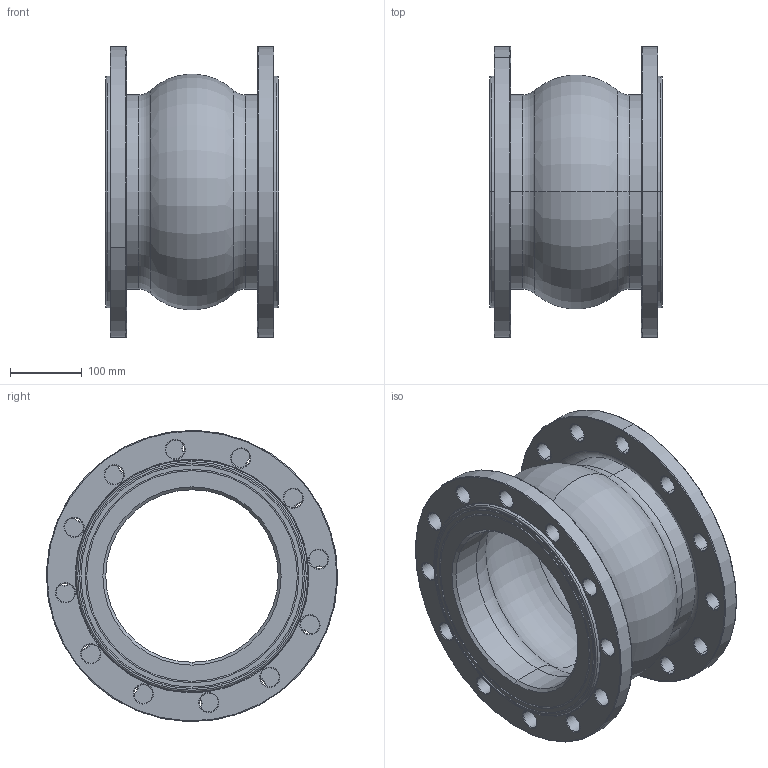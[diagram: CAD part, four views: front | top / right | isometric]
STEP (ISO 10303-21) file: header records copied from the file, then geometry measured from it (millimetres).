
FILE_DESCRIPTION (( 'STEP AP203' ), '1' );
FILE_NAME ('DN250 PN16.STEP', '2026-07-16T06:32:56', ( 'Windows 蚚誧' ), ( '' ), 'SwSTEP 2.0', 'SolidWorks 2018', '' );
FILE_SCHEMA (( 'CONFIG_CONTROL_DESIGN' ));
Length unit declared in the file: millimetre
Products named in the file (3): DN250 PN16; DN250球体
Assembly tree (3 placements, depth 2):
  DN250 PN16
    DN250球体
    DN250 PN16  x2
Bounding box: 242 x 405 x 405 mm (x, y, z)
Volume: 6477980.1 mm3; surface area: 1015156.9 mm2
Topology: 3 solids, 3 shells, 262 faces, 572 edges, 328 vertices
Faces by surface type: torus 160, cylinder 80, plane 18, cone 4
Entity records: 4957 total; most frequent: DIRECTION 1004, CARTESIAN_POINT 732, ORIENTED_EDGE 712, AXIS2_PLACEMENT_3D 476, EDGE_CURVE 356, CIRCLE 304, VERTEX_POINT 204, EDGE_LOOP 204
